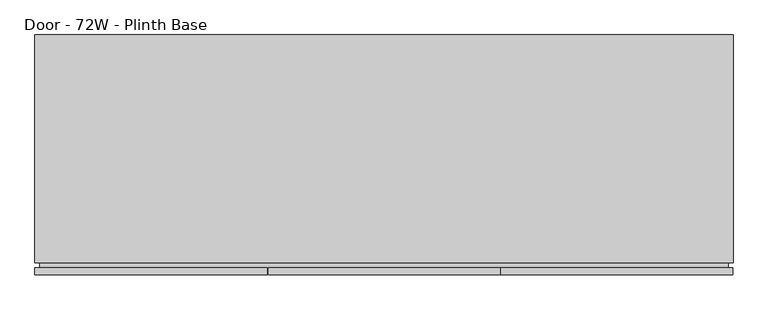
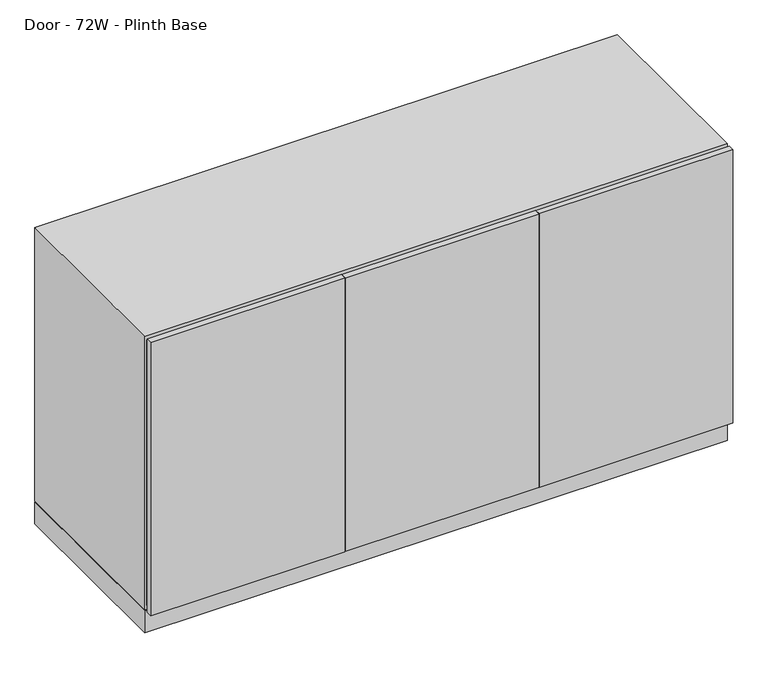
"""IFC4 building model written with IfcOpenShell, lengths in millimetres: furniture geometry, Steelcase Coalesse - Exponents - Storage - Credenza - 39H : Door - 72W - Plinth Base."""

import ifcopenshell
import ifcopenshell.guid

model = None  # the IFC model being written
_history = None  # IfcOwnerHistory: only IFC2X3 demands one
_inside = {}  # id of a spatial element -> (the spatial element, [elements in it])
_under = {}  # id of a project, library or spatial element -> (it, [spatial elements below it])
_declared = {}  # id of a project -> (the project, [libraries it declares])
_typed = {}  # id of a type object -> (the type object, [elements of that type])
_made_of = {}  # id of a material, layer set ... -> (it, [elements and type objects made of it])


def new_model(schema):
    """Start an empty IFC model of exactly this schema.

    Asked for "IFC4X3", IfcOpenShell would pick the latest addendum, in which some entities
    have other attributes; the version numbers below select the first issue.
    IFC2X3 requires an IfcOwnerHistory on every rooted entity: one is made here for all.
    """
    global model, _history
    if schema == "IFC4X3":
        model = ifcopenshell.file(schema_version=(4, 3, 0, 0))
    else:
        model = ifcopenshell.file(schema=schema)
    _inside.clear()
    _under.clear()
    _declared.clear()
    _typed.clear()
    _made_of.clear()
    _history = None
    if model.schema == "IFC2X3":
        org = make("IfcOrganization", Name="unknown")
        user = make(
            "IfcPersonAndOrganization",
            ThePerson=make("IfcPerson", FamilyName="unknown"),
            TheOrganization=org,
        )
        app = make(
            "IfcApplication",
            ApplicationDeveloper=org,
            Version="unknown",
            ApplicationFullName="unknown",
            ApplicationIdentifier="unknown",
        )
        _history = make(
            "IfcOwnerHistory",
            OwningUser=user,
            OwningApplication=app,
            ChangeAction="ADDED",
            CreationDate=0,
        )
    return model


def make(cls, **values):
    """One entity of the class cls with the attributes given. An attribute that is None is left unset."""
    return model.create_entity(
        cls, **{name: value for name, value in values.items() if value is not None}
    )


def rooted(cls, **values):
    """An entity with a GlobalId (a new one), such as an element, a storey or a relation."""
    return make(cls, GlobalId=ifcopenshell.guid.new(), OwnerHistory=_history, **values)


def si_unit(unit_type, name, prefix=None):
    """IfcSIUnit, for example si_unit("LENGTHUNIT", "METRE", prefix="MILLI")."""
    return make("IfcSIUnit", UnitType=unit_type, Prefix=prefix, Name=name)


def assignment(units):
    """IfcUnitAssignment: the units of a project."""
    return None if units is None else make("IfcUnitAssignment", Units=units)


def point(xyz):
    """IfcCartesianPoint."""
    return None if xyz is None else make("IfcCartesianPoint", Coordinates=xyz)


def direction(xyz):
    """IfcDirection."""
    return None if xyz is None else make("IfcDirection", DirectionRatios=xyz)


def frame(location, z_axis=None, x_axis=None):
    """IfcAxis2Placement3D, a coordinate frame: its origin and axes. An axis left out is left unset."""
    return make(
        "IfcAxis2Placement3D",
        Location=point(location),
        Axis=direction(z_axis),
        RefDirection=direction(x_axis),
    )


def frame_2d(location, x_axis=None):
    """IfcAxis2Placement2D, a coordinate frame in the plane: its origin and x axis."""
    return make(
        "IfcAxis2Placement2D", Location=point(location), RefDirection=direction(x_axis)
    )


def origin():
    """The frame at (0, 0, 0) with its axes left unset."""
    return frame((0.0, 0.0, 0.0))


def origin_with_axes():
    """The frame at (0, 0, 0) with the z axis (0, 0, 1) and the x axis (1, 0, 0) written out."""
    return frame((0.0, 0.0, 0.0), z_axis=(0.0, 0.0, 1.0), x_axis=(1.0, 0.0, 0.0))


def place(relative_to, where):
    """IfcLocalPlacement: puts the frame where relative to a parent placement (None: the world)."""
    return make(
        "IfcLocalPlacement", PlacementRelTo=relative_to, RelativePlacement=where
    )


def context(
    kind, dimensions, precision=None, world=None, true_north=None, identifier=None
):
    """IfcGeometricRepresentationContext, for example the 3D "Model" context."""
    return make(
        "IfcGeometricRepresentationContext",
        ContextIdentifier=identifier,
        ContextType=kind,
        CoordinateSpaceDimension=dimensions,
        Precision=precision,
        WorldCoordinateSystem=world,
        TrueNorth=true_north,
    )


def project(units=None, contexts=None):
    """IfcProject with its units and contexts."""
    return rooted(
        "IfcProject",
        Name="project",
        RepresentationContexts=contexts,
        UnitsInContext=assignment(units),
    )


def spatial(cls, under=None, at=None, **own):
    """A site, building, storey or space (cls), placed at a placement, below another one or the project."""
    s = rooted(cls, ObjectPlacement=at, **own)
    if under is not None:
        _under.setdefault(under.id(), (under, []))[1].append(s)
    return s


def polyline(points):
    """IfcPolyline through the points."""
    return make("IfcPolyline", Points=[point(p) for p in points])


def circle_curve(where, radius):
    """IfcCircle in the frame where."""
    return make("IfcCircle", Position=where, Radius=radius)


def trimmed(basis, trim1, trim2, sense, master):
    """IfcTrimmedCurve: the piece of a basis curve between two trims."""
    return make(
        "IfcTrimmedCurve",
        BasisCurve=basis,
        Trim1=trim1,
        Trim2=trim2,
        SenseAgreement=sense,
        MasterRepresentation=master,
    )


def segment(curve, same_sense, transition):
    """IfcCompositeCurveSegment."""
    return make(
        "IfcCompositeCurveSegment",
        Transition=transition,
        SameSense=same_sense,
        ParentCurve=curve,
    )


def composite_curve(segments, self_intersect=None):
    """IfcCompositeCurve: segments joined end to end."""
    return make("IfcCompositeCurve", Segments=segments, SelfIntersect=self_intersect)


def outline(outer, holes=None, kind="AREA"):
    """IfcArbitraryClosedProfileDef: a profile drawn as a closed curve; with holes, ...WithVoids."""
    if holes is None:
        return make("IfcArbitraryClosedProfileDef", ProfileType=kind, OuterCurve=outer)
    return make(
        "IfcArbitraryProfileDefWithVoids",
        ProfileType=kind,
        OuterCurve=outer,
        InnerCurves=holes,
    )


def extrude(swept, where, along, depth):
    """IfcExtrudedAreaSolid: the profile swept, set in the frame where, extruded along a direction by depth."""
    return make(
        "IfcExtrudedAreaSolid",
        SweptArea=swept,
        Position=where,
        ExtrudedDirection=direction(along),
        Depth=depth,
    )


def faces_of(points, faces, orient=None, outer=None):
    """IfcFace entities. A face is a list of loops; a loop is a list of indices into points, from 0.

    orient and outer hold one flag for each loop. By default every Orientation is true, the
    first loop of a face is its IfcFaceOuterBound and the others are IfcFaceBound.
    """
    made = []
    for i, loops in enumerate(faces):
        bounds = []
        for j, loop in enumerate(loops):
            is_outer = j == 0 if outer is None else outer[i][j]
            bounds.append(
                make(
                    "IfcFaceOuterBound" if is_outer else "IfcFaceBound",
                    Bound=make("IfcPolyLoop", Polygon=[points[k] for k in loop]),
                    Orientation=True if orient is None else orient[i][j],
                )
            )
        made.append(make("IfcFace", Bounds=bounds))
    return made


def faceted_brep(points, faces, orient=None, outer=None, voids=None):
    """IfcFacetedBrep: a solid bounded by flat faces; with voids (closed shells), ...WithVoids."""
    shared = [point(p) for p in points]
    hull = make("IfcClosedShell", CfsFaces=faces_of(shared, faces, orient, outer))
    if voids is None:
        return make("IfcFacetedBrep", Outer=hull)
    return make(
        "IfcFacetedBrepWithVoids",
        Outer=hull,
        Voids=[
            make(cls, CfsFaces=faces_of(shared, fs, o, b)) for cls, fs, o, b in voids
        ],
    )


def shape(context_of_items, identifier, shape_type, items):
    """IfcShapeRepresentation: the items that make up one representation, for example the "Body"."""
    return make(
        "IfcShapeRepresentation",
        ContextOfItems=context_of_items,
        RepresentationIdentifier=identifier,
        RepresentationType=shape_type,
        Items=items,
    )


def source(mapping_origin, context_of_items, identifier, shape_type, items):
    """IfcRepresentationMap: a shape defined once, which mapped items show again and again."""
    return make(
        "IfcRepresentationMap",
        MappingOrigin=mapping_origin,
        MappedRepresentation=shape(context_of_items, identifier, shape_type, items),
    )


def transform(
    local_origin,
    x_axis=None,
    y_axis=None,
    z_axis=None,
    scale=None,
    scale2=None,
    scale3=None,
    uniform=True,
):
    """IfcCartesianTransformationOperator3D, or its non-uniform kind. x_axis, y_axis, z_axis: its Axis1, 2, 3."""
    if uniform:
        return make(
            "IfcCartesianTransformationOperator3D",
            Axis1=direction(x_axis),
            Axis2=direction(y_axis),
            LocalOrigin=point(local_origin),
            Scale=scale,
            Axis3=direction(z_axis),
        )
    return make(
        "IfcCartesianTransformationOperator3DnonUniform",
        Axis1=direction(x_axis),
        Axis2=direction(y_axis),
        LocalOrigin=point(local_origin),
        Scale=scale,
        Axis3=direction(z_axis),
        Scale2=scale2,
        Scale3=scale3,
    )


def mapped(mapping_source, mapping_target):
    """IfcMappedItem: shows the shape of a source again, moved by a transform."""
    return make(
        "IfcMappedItem", MappingSource=mapping_source, MappingTarget=mapping_target
    )


def made_of(thing, what):
    """Note that an element or type object is made of a material, layer set ...; save() writes the relation."""
    if what is not None:
        _made_of.setdefault(what.id(), (what, []))[1].append(thing)
    return thing


def element(
    cls,
    number,
    at=None,
    inside=None,
    cuts=None,
    type_object=None,
    material=None,
    context=None,
    identifier="Body",
    shape_type=None,
    held_by="IfcProductDefinitionShape",
    body=None,
    shapes=None,
    **own,
):
    """One element of the class cls, such as IfcWall. Its Tag is "e" and its number.

    at: its placement. inside: the storey or other place that contains it. cuts: it is an
    opening in that element (IfcRelVoidsElement). A single representation is given by context,
    identifier, shape_type and body (its items); several are given by shapes. held_by: the class
    of the entity that holds the representations. save() writes the other relations.
    """
    e = rooted(cls, Tag="e%d" % number, ObjectPlacement=at, **own)
    if body is not None:
        shapes = [shape(context, identifier, shape_type, body)]
    if shapes is not None:
        e.Representation = make(held_by, Representations=shapes)
    if inside is not None:
        _inside.setdefault(inside.id(), (inside, []))[1].append(e)
    if cuts is not None:
        rooted(
            "IfcRelVoidsElement", RelatingBuildingElement=cuts, RelatedOpeningElement=e
        )
    if type_object is not None:
        _typed.setdefault(type_object.id(), (type_object, []))[1].append(e)
    return made_of(e, material)


def aggregate(whole, parts):
    """IfcRelAggregates: a whole, such as a stair, and the parts it consists of."""
    return rooted("IfcRelAggregates", RelatingObject=whole, RelatedObjects=parts)


def save(model, path):
    """Write the relations noted so far, then the file.

    IfcRelAggregates (storeys below a building ...), IfcRelContainedInSpatialStructure (elements
    in a storey), IfcRelDefinesByType, IfcRelAssociatesMaterial and IfcRelDeclares: one each for
    every whole, place, type object, material and project.
    """
    for whole, parts in _under.values():
        aggregate(whole, parts)
    for where, things in _inside.values():
        rooted(
            "IfcRelContainedInSpatialStructure",
            RelatedElements=things,
            RelatingStructure=where,
        )
    for kind, things in _typed.values():
        rooted("IfcRelDefinesByType", RelatedObjects=things, RelatingType=kind)
    for what, things in _made_of.values():
        rooted("IfcRelAssociatesMaterial", RelatedObjects=things, RelatingMaterial=what)
    for by, libraries in _declared.values():
        rooted("IfcRelDeclares", RelatingContext=by, RelatedDefinitions=libraries)
    model.write(path)


def door_72w_plinth_base_257990f4(model_context):
    return source(origin(), model_context, "Body", "SolidModel", [
        faceted_brep([(6.35, 31.75, 977.9), (6.35, 31.75, 95.25), (6.35, 622.3, 95.25), (6.35, 622.3, 977.9), (1822.45, 622.3, 95.25), (1822.45, 622.3, 977.9), (1822.45, 31.75, 95.25), (1822.45, 31.75, 977.9), (0.0, 31.75, 82.55), (1828.8, 31.75, 82.55), (1828.8, 31.75, 990.6), (0.0, 31.75, 990.6), (1828.8, 628.65, 82.55), (1828.8, 628.65, 990.6), (0.0, 628.65, 82.55), (0.0, 628.65, 990.6)], [[[0, 1, 2, 3]], [[3, 2, 4, 5]], [[5, 4, 6, 7]], [[8, 9, 10, 11], [7, 6, 1, 0]], [[10, 9, 12, 13]], [[13, 12, 14, 15]], [[15, 14, 8, 11]], [[7, 0, 3, 5]], [[10, 13, 15, 11]], [[1, 6, 4, 2]], [[12, 9, 8, 14]]]),
        extrude(outline(polyline([(977.9, 1816.1), (977.9, 12.7), (95.25, 12.7), (95.25, 1816.1), (977.9, 1816.1)]), holes=[polyline([(971.55, 1809.75), (101.6, 1809.75), (101.6, 19.05), (971.55, 19.05), (971.55, 1809.75)])]), frame((0.0, 19.05, 0.0), z_axis=(0.0, 1.0, 0.0), x_axis=(0.0, 0.0, 1.0)), (0.0, 0.0, 1.0), 31.75),
        extrude(outline(composite_curve([segment(trimmed(circle_curve(frame_2d((19.05, 593.5667033)), 6.35), [point((12.7, 593.5667033))], [point((25.4, 593.5667033))], False, "CARTESIAN"), True, "CONTINUOUS"), segment(trimmed(circle_curve(frame_2d((19.05, 593.5667033)), 6.35), [point((25.4, 593.5667033))], [point((12.7, 593.5667033))], False, "CARTESIAN"), True, "CONTINUOUS")], self_intersect=False)), origin_with_axes(), (0.0, 0.0, 1.0), 6.35),
        extrude(outline(composite_curve([segment(trimmed(circle_curve(frame_2d((19.05, 66.7867854)), 6.35), [point((12.7, 66.7867854))], [point((25.4, 66.7867854))], False, "CARTESIAN"), True, "CONTINUOUS"), segment(trimmed(circle_curve(frame_2d((19.05, 66.7867854)), 6.35), [point((25.4, 66.7867854))], [point((12.7, 66.7867854))], False, "CARTESIAN"), True, "CONTINUOUS")], self_intersect=False)), origin_with_axes(), (0.0, 0.0, 1.0), 6.35),
        extrude(outline(composite_curve([segment(trimmed(circle_curve(frame_2d((1809.75, 593.5667033)), 6.35), [point((1803.4, 593.5667033))], [point((1816.1, 593.5667033))], False, "CARTESIAN"), True, "CONTINUOUS"), segment(trimmed(circle_curve(frame_2d((1809.75, 593.5667033)), 6.35), [point((1816.1, 593.5667033))], [point((1803.4, 593.5667033))], False, "CARTESIAN"), True, "CONTINUOUS")], self_intersect=False)), origin_with_axes(), (0.0, 0.0, 1.0), 6.35),
        extrude(outline(composite_curve([segment(trimmed(circle_curve(frame_2d((1809.75, 66.7867854)), 6.35), [point((1803.4, 66.7867854))], [point((1816.1, 66.7867854))], False, "CARTESIAN"), True, "CONTINUOUS"), segment(trimmed(circle_curve(frame_2d((1809.75, 66.7867854)), 6.35), [point((1816.1, 66.7867854))], [point((1803.4, 66.7867854))], False, "CARTESIAN"), True, "CONTINUOUS")], self_intersect=False)), origin_with_axes(), (0.0, 0.0, 1.0), 6.35),
        extrude(outline(polyline([(1827.8348, 19.05), (1827.8348, 0.0), (1220.0128, 0.0), (1220.0128, 19.05), (1827.8348, 19.05)])), frame((0.0, 0.0, 82.55), z_axis=(0.0, 0.0, 1.0), x_axis=(1.0, 0.0, 0.0)), (0.0, 0.0, 1.0), 908.05),
        extrude(outline(polyline([(1218.4126, 19.05), (1218.4126, 0.0), (610.5652, 0.0), (610.5652, 19.05), (1218.4126, 19.05)])), frame((0.0, 0.0, 82.55), z_axis=(0.0, 0.0, 1.0), x_axis=(1.0, 0.0, 0.0)), (0.0, 0.0, 1.0), 908.05),
        extrude(outline(polyline([(608.965, 19.05), (608.965, 0.0), (0.0, 0.0), (0.0, 19.05), (608.965, 19.05)])), frame((0.0, 0.0, 82.55), z_axis=(0.0, 0.0, 1.0), x_axis=(1.0, 0.0, 0.0)), (0.0, 0.0, 1.0), 908.05),
        extrude(outline(polyline([(0.0, -19.05), (0.0, 0.0), (31.75, 0.0), (31.75, -19.05), (0.0, -19.05)])), frame((1209.675, 19.05, 101.6), z_axis=(3.14415160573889e-12, 0.0, 1.0), x_axis=(0.0, 1.0, 0.0)), (0.0, 0.0, 1.0), 869.95),
        extrude(outline(polyline([(0.0, -19.05), (0.0, 0.0), (31.75, 0.0), (31.75, -19.05), (0.0, -19.05)])), frame((590.55, 19.05, 101.6), z_axis=(3.3644198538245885e-12, 0.0, 1.0), x_axis=(0.0, 1.0, 0.0)), (0.0, 0.0, 1.0), 869.95),
        extrude(outline(polyline([(1209.675, 609.6), (1228.725, 609.6), (1228.725, 50.8), (1209.675, 50.8), (1209.675, 609.6)])), frame((0.0, 0.0, 95.25), z_axis=(0.0, 0.0, 1.0), x_axis=(1.0, 0.0, 0.0)), (0.0, 0.0, 1.0), 882.65),
        extrude(outline(polyline([(1209.675, 50.8), (609.6, 50.8), (609.6, 609.6), (1209.675, 609.6), (1209.675, 50.8)])), frame((0.0, 0.0, 523.875), z_axis=(0.0, 0.0, 1.0), x_axis=(1.0, 0.0, 0.0)), (0.0, 0.0, 1.0), 19.05),
        extrude(outline(polyline([(1828.8, 628.65), (1828.8, 31.75), (0.0, 31.75), (0.0, 628.65), (1828.8, 628.65)]), holes=[polyline([(1809.75, 622.3), (19.05, 622.3), (19.05, 38.1), (1809.75, 38.1), (1809.75, 622.3)])]), frame((0.0, 0.0, 6.35), z_axis=(0.0, 0.0, 1.0), x_axis=(1.0, 0.0, 0.0)), (0.0, 0.0, 1.0), 73.4568),
        extrude(outline(polyline([(590.55, 609.6), (609.6, 609.6), (609.6, 50.8), (590.55, 50.8), (590.55, 609.6)])), frame((0.0, 0.0, 95.25), z_axis=(0.0, 0.0, 1.0), x_axis=(1.0, 0.0, 0.0)), (0.0, 0.0, 1.0), 882.65),
    ])


if __name__ == "__main__":
    model = new_model("IFC4")
    model_context = context("Model", 3, world=origin())
    ifc_project = project(units=[si_unit("LENGTHUNIT", "METRE", prefix="MILLI")], contexts=[model_context])
    site = spatial("IfcSite", under=ifc_project)
    building = spatial("IfcBuilding", under=site)
    placement = place(None, origin())
    door_72w_plinth_base_shape = door_72w_plinth_base_257990f4(model_context)
    element("IfcFurniture", 1, ObjectType="Steelcase Coalesse - Exponents - Storage - Credenza - 39H : Door - 72W - Plinth Base", at=placement, inside=building, context=model_context, shape_type="MappedRepresentation", body=[
        mapped(door_72w_plinth_base_shape, transform((0.0, 0.0, 0.0), x_axis=(1.0, 0.0, 0.0), y_axis=(0.0, 1.0, 0.0), z_axis=(0.0, 0.0, 1.0))),
    ])
    save(model, "model.ifc")
